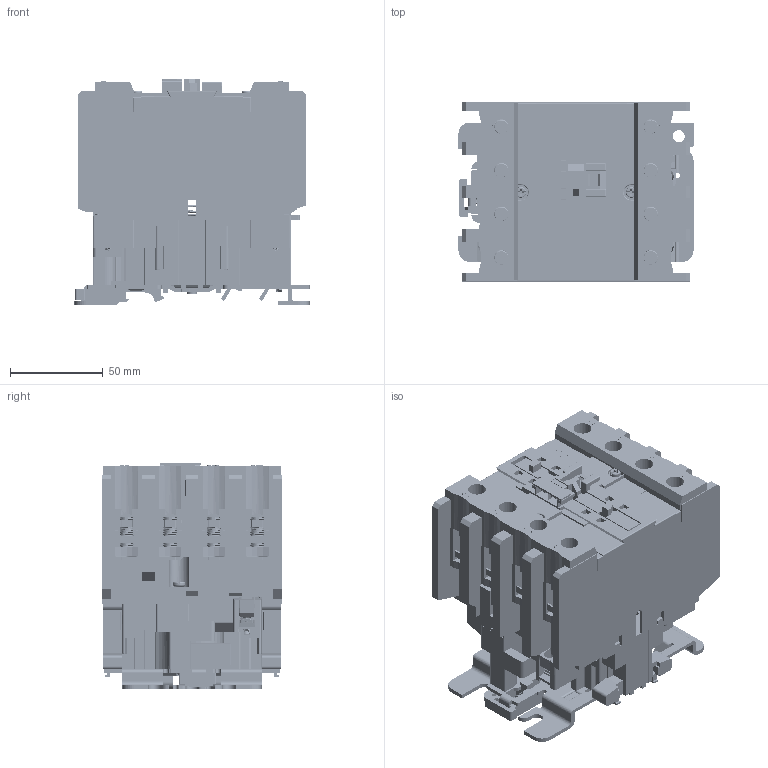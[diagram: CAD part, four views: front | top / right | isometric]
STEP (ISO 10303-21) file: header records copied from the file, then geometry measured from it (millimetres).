
FILE_DESCRIPTION((''),'2;1');
FILE_NAME('CJX2-8000400_ASM','2023-07-28T13:43:11',('Administrator'),(''),'CREO PARAMETRIC BY PTC INC, 2020033','CREO PARAMETRIC BY PTC INC, 2020033','');
FILE_SCHEMA(('CONFIG_CONTROL_DESIGN'));
Products named in the file (42): CJX2-40000; CJX2-40100; CJX2-40200; CJX2-40000_ASM; CJX2-4000; CJX2-400009; CJX2-400010; CJX2-400011; M3_5X9_50002; 7_5X2_600; M3_5X9_50001_ASM; CJX2-400008_ASM; CJX2S-800001; CJX2-800400; CJX2-8004000; CJX2-80040005; CJX2-40_A; CJX2-80001; CJX2-40001; CJX2-400014; CJX2-400015; CJX2-40_AF_ASM; CJX2-40002; CJX2-09000; M3_5X180001; M3_5X480001; CJX2-400016; CJX2-8000400_ASM
Assembly tree (115 placements, depth 4):
  CJX2-8000400_ASM
    CJX2-40000
    CJX2-40000_ASM
      CJX2-40000  x39
      CJX2-40100  x2
      CJX2-40200
    CJX2-40000  x2
    CJX2-4000
    CJX2-400008_ASM
      CJX2-400009
      CJX2-400010
      CJX2-400011
      M3_5X9_50001_ASM  x3
        M3_5X9_50002
        7_5X2_600
    CJX2S-800001
    CJX2-800400
    CJX2-8004000  x2
    CJX2-800400
    CJX2-800400
    CJX2-80040005
    CJX2-4000
    CJX2-40_A
    CJX2-80001  x4
    CJX2-40_AF_ASM
      CJX2-40001
      CJX2-400014
      CJX2-400015
    CJX2-40_AF_ASM
      CJX2-40001
      CJX2-400014
      CJX2-400015
    CJX2-40_AF_ASM
      CJX2-40001
      CJX2-400014
      CJX2-400015
    CJX2-40_AF_ASM
      CJX2-40001
      CJX2-400014
      CJX2-400015
    CJX2-40002  x4
    CJX2-40_AF_ASM
      CJX2-40001
      CJX2-400014
      CJX2-400015
    CJX2-40_AF_ASM
      CJX2-40001
      CJX2-400014
      CJX2-400015
    CJX2-40_AF_ASM
      CJX2-40001
      CJX2-400014
      CJX2-400015
    CJX2-40_AF_ASM
      CJX2-40001
      CJX2-400014
      CJX2-400015
    CJX2-8004000
    CJX2-8004000
    CJX2-09000
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Bounding box: 126.7 x 96.5 x 122.1 mm (x, y, z)
Volume: 757399.4 mm3; surface area: 397864.1 mm2
Topology: 112 solids, 112 shells, 8071 faces, 22603 edges, 14870 vertices
Faces by surface type: plane 5245, cylinder 2195, bspline 445, sphere 85, torus 82, cone 19
Entity records: 168904 total; most frequent: CARTESIAN_POINT 47631, ORIENTED_EDGE 26036, DIRECTION 23496, EDGE_CURVE 13018, VECTOR 10632, LINE 10632, VERTEX_POINT 8578, AXIS2_PLACEMENT_3D 6432
